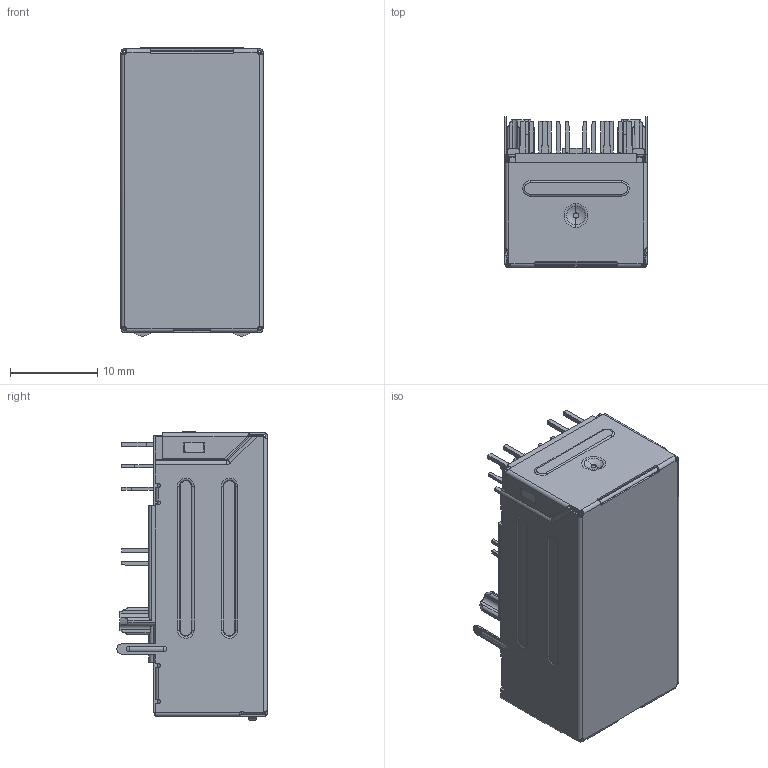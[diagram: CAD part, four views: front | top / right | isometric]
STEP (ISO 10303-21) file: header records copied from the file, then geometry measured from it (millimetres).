
FILE_DESCRIPTION((''),'2;1');
FILE_NAME('DGKYD411Q377AB2A2DPB5057','2025-11-05T15:33:40',('DGKYD'),(''),'CREO PARAMETRIC BY PTC INC, 2019010','CREO PARAMETRIC BY PTC INC, 2019010','');
FILE_SCHEMA(('CONFIG_CONTROL_DESIGN'));
Products named in the file (1): DGKYD411Q377AB2A2DPB5057
Bounding box: 16.51 x 17.29 x 33.09 mm (x, y, z)
Volume: 3264.1 mm3; surface area: 11023.7 mm2
Topology: 5 solids, 5 shells, 2722 faces, 8148 edges, 5344 vertices
Faces by surface type: plane 2090, cylinder 526, torus 40, bspline 34, sphere 20, cone 12
Entity records: 92996 total; most frequent: CARTESIAN_POINT 18372, ORIENTED_EDGE 16272, DIRECTION 14591, EDGE_CURVE 8136, VECTOR 6691, LINE 6691, VERTEX_POINT 5344, AXIS2_PLACEMENT_3D 3950
